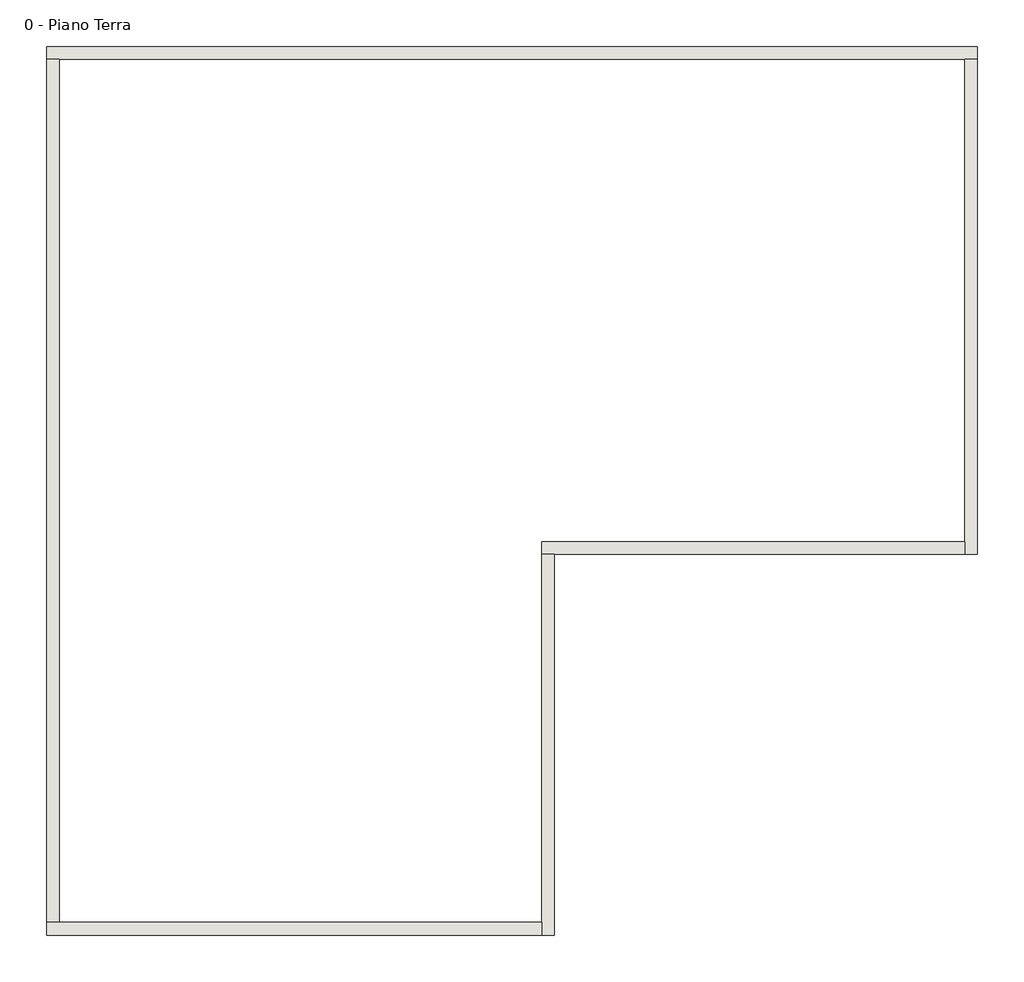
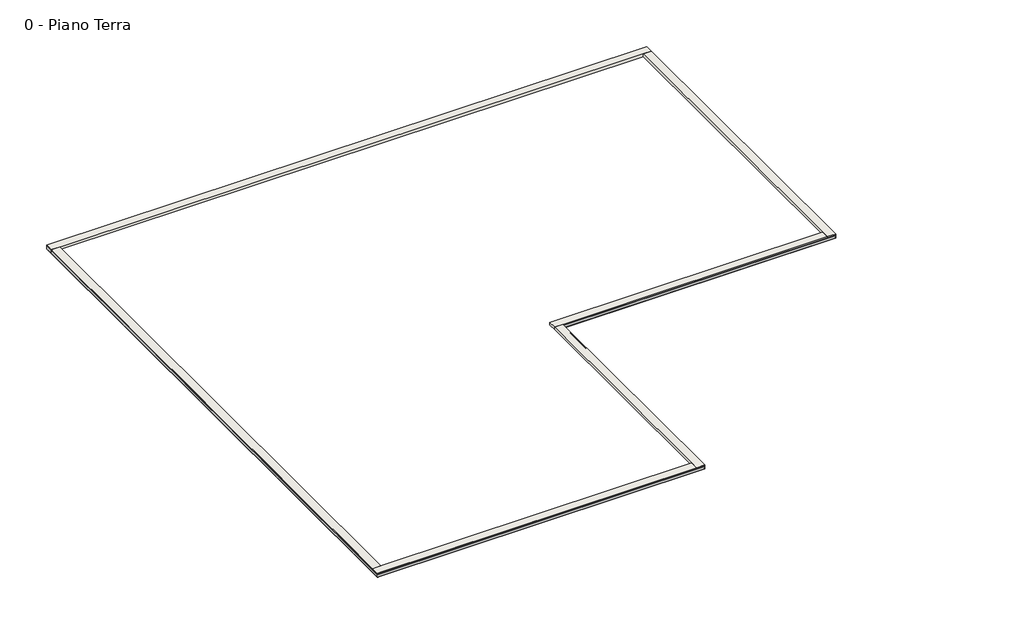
# One storey: 6 walls, 1 proxy.
"""IFC4 building model written with IfcOpenShell, lengths in millimetres."""

import ifcopenshell
import ifcopenshell.guid

model = None  # the IFC model being written
_history = None  # IfcOwnerHistory: only IFC2X3 demands one
_inside = {}  # id of a spatial element -> (the spatial element, [elements in it])
_under = {}  # id of a project, library or spatial element -> (it, [spatial elements below it])
_declared = {}  # id of a project -> (the project, [libraries it declares])
_typed = {}  # id of a type object -> (the type object, [elements of that type])
_made_of = {}  # id of a material, layer set ... -> (it, [elements and type objects made of it])


def new_model(schema):
    """Start an empty IFC model of exactly this schema.

    Asked for "IFC4X3", IfcOpenShell would pick the latest addendum, in which some entities
    have other attributes; the version numbers below select the first issue.
    IFC2X3 requires an IfcOwnerHistory on every rooted entity: one is made here for all.
    """
    global model, _history
    if schema == "IFC4X3":
        model = ifcopenshell.file(schema_version=(4, 3, 0, 0))
    else:
        model = ifcopenshell.file(schema=schema)
    _inside.clear()
    _under.clear()
    _declared.clear()
    _typed.clear()
    _made_of.clear()
    _history = None
    if model.schema == "IFC2X3":
        org = make("IfcOrganization", Name="unknown")
        user = make(
            "IfcPersonAndOrganization",
            ThePerson=make("IfcPerson", FamilyName="unknown"),
            TheOrganization=org,
        )
        app = make(
            "IfcApplication",
            ApplicationDeveloper=org,
            Version="unknown",
            ApplicationFullName="unknown",
            ApplicationIdentifier="unknown",
        )
        _history = make(
            "IfcOwnerHistory",
            OwningUser=user,
            OwningApplication=app,
            ChangeAction="ADDED",
            CreationDate=0,
        )
    return model


def make(cls, **values):
    """One entity of the class cls with the attributes given. An attribute that is None is left unset."""
    return model.create_entity(
        cls, **{name: value for name, value in values.items() if value is not None}
    )


def rooted(cls, **values):
    """An entity with a GlobalId (a new one), such as an element, a storey or a relation."""
    return make(cls, GlobalId=ifcopenshell.guid.new(), OwnerHistory=_history, **values)


def si_unit(unit_type, name, prefix=None):
    """IfcSIUnit, for example si_unit("LENGTHUNIT", "METRE", prefix="MILLI")."""
    return make("IfcSIUnit", UnitType=unit_type, Prefix=prefix, Name=name)


def assignment(units):
    """IfcUnitAssignment: the units of a project."""
    return None if units is None else make("IfcUnitAssignment", Units=units)


def point(xyz):
    """IfcCartesianPoint."""
    return None if xyz is None else make("IfcCartesianPoint", Coordinates=xyz)


def direction(xyz):
    """IfcDirection."""
    return None if xyz is None else make("IfcDirection", DirectionRatios=xyz)


def frame(location, z_axis=None, x_axis=None):
    """IfcAxis2Placement3D, a coordinate frame: its origin and axes. An axis left out is left unset."""
    return make(
        "IfcAxis2Placement3D",
        Location=point(location),
        Axis=direction(z_axis),
        RefDirection=direction(x_axis),
    )


def origin():
    """The frame at (0, 0, 0) with its axes left unset."""
    return frame((0.0, 0.0, 0.0))


def place(relative_to, where):
    """IfcLocalPlacement: puts the frame where relative to a parent placement (None: the world)."""
    return make(
        "IfcLocalPlacement", PlacementRelTo=relative_to, RelativePlacement=where
    )


def context(
    kind, dimensions, precision=None, world=None, true_north=None, identifier=None
):
    """IfcGeometricRepresentationContext, for example the 3D "Model" context."""
    return make(
        "IfcGeometricRepresentationContext",
        ContextIdentifier=identifier,
        ContextType=kind,
        CoordinateSpaceDimension=dimensions,
        Precision=precision,
        WorldCoordinateSystem=world,
        TrueNorth=true_north,
    )


def project(units=None, contexts=None):
    """IfcProject with its units and contexts."""
    return rooted(
        "IfcProject",
        Name="project",
        RepresentationContexts=contexts,
        UnitsInContext=assignment(units),
    )


def spatial(cls, under=None, at=None, **own):
    """A site, building, storey or space (cls), placed at a placement, below another one or the project."""
    s = rooted(cls, ObjectPlacement=at, **own)
    if under is not None:
        _under.setdefault(under.id(), (under, []))[1].append(s)
    return s


def faces_of(points, faces, orient=None, outer=None):
    """IfcFace entities. A face is a list of loops; a loop is a list of indices into points, from 0.

    orient and outer hold one flag for each loop. By default every Orientation is true, the
    first loop of a face is its IfcFaceOuterBound and the others are IfcFaceBound.
    """
    made = []
    for i, loops in enumerate(faces):
        bounds = []
        for j, loop in enumerate(loops):
            is_outer = j == 0 if outer is None else outer[i][j]
            bounds.append(
                make(
                    "IfcFaceOuterBound" if is_outer else "IfcFaceBound",
                    Bound=make("IfcPolyLoop", Polygon=[points[k] for k in loop]),
                    Orientation=True if orient is None else orient[i][j],
                )
            )
        made.append(make("IfcFace", Bounds=bounds))
    return made


def faceted_brep(points, faces, orient=None, outer=None, voids=None):
    """IfcFacetedBrep: a solid bounded by flat faces; with voids (closed shells), ...WithVoids."""
    shared = [point(p) for p in points]
    hull = make("IfcClosedShell", CfsFaces=faces_of(shared, faces, orient, outer))
    if voids is None:
        return make("IfcFacetedBrep", Outer=hull)
    return make(
        "IfcFacetedBrepWithVoids",
        Outer=hull,
        Voids=[
            make(cls, CfsFaces=faces_of(shared, fs, o, b)) for cls, fs, o, b in voids
        ],
    )


def shape(context_of_items, identifier, shape_type, items):
    """IfcShapeRepresentation: the items that make up one representation, for example the "Body"."""
    return make(
        "IfcShapeRepresentation",
        ContextOfItems=context_of_items,
        RepresentationIdentifier=identifier,
        RepresentationType=shape_type,
        Items=items,
    )


def made_of(thing, what):
    """Note that an element or type object is made of a material, layer set ...; save() writes the relation."""
    if what is not None:
        _made_of.setdefault(what.id(), (what, []))[1].append(thing)
    return thing


def element(
    cls,
    number,
    at=None,
    inside=None,
    cuts=None,
    type_object=None,
    material=None,
    context=None,
    identifier="Body",
    shape_type=None,
    held_by="IfcProductDefinitionShape",
    body=None,
    shapes=None,
    **own,
):
    """One element of the class cls, such as IfcWall. Its Tag is "e" and its number.

    at: its placement. inside: the storey or other place that contains it. cuts: it is an
    opening in that element (IfcRelVoidsElement). A single representation is given by context,
    identifier, shape_type and body (its items); several are given by shapes. held_by: the class
    of the entity that holds the representations. save() writes the other relations.
    """
    e = rooted(cls, Tag="e%d" % number, ObjectPlacement=at, **own)
    if body is not None:
        shapes = [shape(context, identifier, shape_type, body)]
    if shapes is not None:
        e.Representation = make(held_by, Representations=shapes)
    if inside is not None:
        _inside.setdefault(inside.id(), (inside, []))[1].append(e)
    if cuts is not None:
        rooted(
            "IfcRelVoidsElement", RelatingBuildingElement=cuts, RelatedOpeningElement=e
        )
    if type_object is not None:
        _typed.setdefault(type_object.id(), (type_object, []))[1].append(e)
    return made_of(e, material)


def aggregate(whole, parts):
    """IfcRelAggregates: a whole, such as a stair, and the parts it consists of."""
    return rooted("IfcRelAggregates", RelatingObject=whole, RelatedObjects=parts)


def save(model, path):
    """Write the relations noted so far, then the file.

    IfcRelAggregates (storeys below a building ...), IfcRelContainedInSpatialStructure (elements
    in a storey), IfcRelDefinesByType, IfcRelAssociatesMaterial and IfcRelDeclares: one each for
    every whole, place, type object, material and project.
    """
    for whole, parts in _under.values():
        aggregate(whole, parts)
    for where, things in _inside.values():
        rooted(
            "IfcRelContainedInSpatialStructure",
            RelatedElements=things,
            RelatingStructure=where,
        )
    for kind, things in _typed.values():
        rooted("IfcRelDefinesByType", RelatedObjects=things, RelatingType=kind)
    for what, things in _made_of.values():
        rooted("IfcRelAssociatesMaterial", RelatedObjects=things, RelatingMaterial=what)
    for by, libraries in _declared.values():
        rooted("IfcRelDeclares", RelatingContext=by, RelatedDefinitions=libraries)
    model.write(path)


model = new_model("IFC4")

# Units and contexts
model_context = context("Model", 3, world=origin())
ifc_project = project(units=[si_unit("LENGTHUNIT", "METRE", prefix="MILLI")], contexts=[model_context])

# Site, building, storey
site = spatial("IfcSite", under=ifc_project)
building = spatial("IfcBuilding", under=site)
storey = spatial("IfcBuildingStorey", under=building, Name="0 - Piano Terra", Elevation=0.0)

# Proxy
placement = place(None, origin())
element("IfcBuildingElementProxy", 1, Name="SISTEMA BI FLEX H.10 Volteco", ObjectType="SISTEMA BI FLEX H.10 Volteco", at=placement, inside=storey, context=model_context, shape_type="Brep", body=[
    faceted_brep([(3878.6527437, -9067.0974438, 62.0), (3881.1527437, -9069.5974438, 59.5), (3881.1527437, -9069.5974438, 52.5), (3882.1527437, -9070.5974438, 51.0), (3882.1527437, -9070.5974438, -49.0), (3881.1527437, -9069.5974438, -50.5), (3881.1527437, -9069.5974438, -57.5), (3878.6527437, -9067.0974438, -60.0), (3879.6527437, -9068.0974438, 51.0), (3879.6527437, -9068.0974438, -49.0), (3880.6527437, -9069.0974438, -49.0), (3880.6527437, -9069.0974438, 51.0), (-8121.3472563, -9067.0974438, 62.0), (-8121.3472563, -9067.0974438, -60.0), (-8123.8472563, -9069.5974438, -57.5), (-8123.8472563, -9069.5974438, -50.5), (-8124.8472563, -9070.5974438, -49.0), (-8124.8472563, -9070.5974438, 51.0), (-8123.8472563, -9069.5974438, 52.5), (-8123.8472563, -9069.5974438, 59.5), (-8122.3472563, -9068.0974438, 51.0), (-8123.3472563, -9069.0974438, 51.0), (-8123.3472563, -9069.0974438, -49.0), (-8122.3472563, -9068.0974438, -49.0)], [[[0, 1, 2, 3, 4, 5, 6, 7], [8, 9, 10, 11]], [[12, 13, 14, 15, 16, 17, 18, 19], [20, 21, 22, 23]], [[1, 0, 12, 19]], [[2, 1, 19, 18]], [[3, 2, 18, 17]], [[4, 3, 17, 16]], [[5, 4, 16, 15]], [[6, 5, 15, 14]], [[7, 6, 14, 13]], [[0, 7, 13, 12]], [[9, 8, 20, 23]], [[10, 9, 23, 22]], [[11, 10, 22, 21]], [[8, 11, 21, 20]]]),
    faceted_brep([(3878.6527437, -67.0974438, 62.0), (3881.1527437, -69.5974438, 59.5), (3881.1527437, -69.5974438, 52.5), (3882.1527437, -70.5974438, 51.0), (3882.1527437, -70.5974438, -49.0), (3881.1527437, -69.5974438, -50.5), (3881.1527437, -69.5974438, -57.5), (3878.6527437, -67.0974438, -60.0), (3879.6527437, -68.0974438, 51.0), (3879.6527437, -68.0974438, -49.0), (3880.6527437, -69.0974438, -49.0), (3880.6527437, -69.0974438, 51.0), (3878.6527437, -9067.0974438, 62.0), (3878.6527437, -9067.0974438, -60.0), (3881.1527437, -9069.5974438, -57.5), (3881.1527437, -9069.5974438, -50.5), (3882.1527437, -9070.5974438, -49.0), (3882.1527437, -9070.5974438, 51.0), (3881.1527437, -9069.5974438, 52.5), (3881.1527437, -9069.5974438, 59.5), (3879.6527437, -9068.0974438, 51.0), (3880.6527437, -9069.0974438, 51.0), (3880.6527437, -9069.0974438, -49.0), (3879.6527437, -9068.0974438, -49.0)], [[[0, 1, 2, 3, 4, 5, 6, 7], [8, 9, 10, 11]], [[12, 13, 14, 15, 16, 17, 18, 19], [20, 21, 22, 23]], [[1, 0, 12, 19]], [[2, 1, 19, 18]], [[3, 2, 18, 17]], [[4, 3, 17, 16]], [[5, 4, 16, 15]], [[6, 5, 15, 14]], [[7, 6, 14, 13]], [[0, 7, 13, 12]], [[9, 8, 20, 23]], [[10, 9, 23, 22]], [[11, 10, 22, 21]], [[8, 11, 21, 20]]]),
    faceted_brep([(13878.6527437, -67.0974438, 62.0), (13881.1527437, -69.5974438, 59.5), (13881.1527437, -69.5974438, 52.5), (13882.1527437, -70.5974438, 51.0), (13882.1527437, -70.5974438, -49.0), (13881.1527437, -69.5974438, -50.5), (13881.1527437, -69.5974438, -57.5), (13878.6527437, -67.0974438, -60.0), (13879.6527437, -68.0974438, 51.0), (13879.6527437, -68.0974438, -49.0), (13880.6527437, -69.0974438, -49.0), (13880.6527437, -69.0974438, 51.0), (3878.6527437, -67.0974438, 62.0), (3878.6527437, -67.0974438, -60.0), (3881.1527437, -69.5974438, -57.5), (3881.1527437, -69.5974438, -50.5), (3882.1527437, -70.5974438, -49.0), (3882.1527437, -70.5974438, 51.0), (3881.1527437, -69.5974438, 52.5), (3881.1527437, -69.5974438, 59.5), (3879.6527437, -68.0974438, 51.0), (3880.6527437, -69.0974438, 51.0), (3880.6527437, -69.0974438, -49.0), (3879.6527437, -68.0974438, -49.0)], [[[0, 1, 2, 3, 4, 5, 6, 7], [8, 9, 10, 11]], [[12, 13, 14, 15, 16, 17, 18, 19], [20, 21, 22, 23]], [[1, 0, 12, 19]], [[2, 1, 19, 18]], [[3, 2, 18, 17]], [[4, 3, 17, 16]], [[5, 4, 16, 15]], [[6, 5, 15, 14]], [[7, 6, 14, 13]], [[0, 7, 13, 12]], [[9, 8, 20, 23]], [[10, 9, 23, 22]], [[11, 10, 22, 21]], [[8, 11, 21, 20]]]),
    faceted_brep([(13878.6527437, 11932.9025562, 62.0), (13881.1527437, 11935.4025562, 59.5), (13881.1527437, 11935.4025562, 52.5), (13882.1527437, 11936.4025562, 51.0), (13882.1527437, 11936.4025562, -49.0), (13881.1527437, 11935.4025562, -50.5), (13881.1527437, 11935.4025562, -57.5), (13878.6527437, 11932.9025562, -60.0), (13879.6527437, 11933.9025562, 51.0), (13879.6527437, 11933.9025562, -49.0), (13880.6527437, 11934.9025562, -49.0), (13880.6527437, 11934.9025562, 51.0), (13878.6527437, -67.0974438, 62.0), (13878.6527437, -67.0974438, -60.0), (13881.1527437, -69.5974438, -57.5), (13881.1527437, -69.5974438, -50.5), (13882.1527437, -70.5974438, -49.0), (13882.1527437, -70.5974438, 51.0), (13881.1527437, -69.5974438, 52.5), (13881.1527437, -69.5974438, 59.5), (13879.6527437, -68.0974438, 51.0), (13880.6527437, -69.0974438, 51.0), (13880.6527437, -69.0974438, -49.0), (13879.6527437, -68.0974438, -49.0)], [[[0, 1, 2, 3, 4, 5, 6, 7], [8, 9, 10, 11]], [[12, 13, 14, 15, 16, 17, 18, 19], [20, 21, 22, 23]], [[1, 0, 12, 19]], [[2, 1, 19, 18]], [[3, 2, 18, 17]], [[4, 3, 17, 16]], [[5, 4, 16, 15]], [[6, 5, 15, 14]], [[7, 6, 14, 13]], [[0, 7, 13, 12]], [[9, 8, 20, 23]], [[10, 9, 23, 22]], [[11, 10, 22, 21]], [[8, 11, 21, 20]]]),
    faceted_brep([(-8121.3472563, -9067.0974438, 62.0), (-8123.8472563, -9069.5974438, 59.5), (-8123.8472563, -9069.5974438, 52.5), (-8124.8472563, -9070.5974438, 51.0), (-8124.8472563, -9070.5974438, -49.0), (-8123.8472563, -9069.5974438, -50.5), (-8123.8472563, -9069.5974438, -57.5), (-8121.3472563, -9067.0974438, -60.0), (-8122.3472563, -9068.0974438, 51.0), (-8122.3472563, -9068.0974438, -49.0), (-8123.3472563, -9069.0974438, -49.0), (-8123.3472563, -9069.0974438, 51.0), (-8121.3472563, 11932.9025562, 62.0), (-8121.3472563, 11932.9025562, -60.0), (-8123.8472563, 11935.4025562, -57.5), (-8123.8472563, 11935.4025562, -50.5), (-8124.8472563, 11936.4025562, -49.0), (-8124.8472563, 11936.4025562, 51.0), (-8123.8472563, 11935.4025562, 52.5), (-8123.8472563, 11935.4025562, 59.5), (-8122.3472563, 11933.9025562, 51.0), (-8123.3472563, 11934.9025562, 51.0), (-8123.3472563, 11934.9025562, -49.0), (-8122.3472563, 11933.9025562, -49.0)], [[[0, 1, 2, 3, 4, 5, 6, 7], [8, 9, 10, 11]], [[12, 13, 14, 15, 16, 17, 18, 19], [20, 21, 22, 23]], [[1, 0, 12, 19]], [[2, 1, 19, 18]], [[3, 2, 18, 17]], [[4, 3, 17, 16]], [[5, 4, 16, 15]], [[6, 5, 15, 14]], [[7, 6, 14, 13]], [[0, 7, 13, 12]], [[9, 8, 20, 23]], [[10, 9, 23, 22]], [[11, 10, 22, 21]], [[8, 11, 21, 20]]]),
    faceted_brep([(-8121.3472563, 11932.9025562, 62.0), (-8123.8472563, 11935.4025562, 59.5), (-8123.8472563, 11935.4025562, 52.5), (-8124.8472563, 11936.4025562, 51.0), (-8124.8472563, 11936.4025562, -49.0), (-8123.8472563, 11935.4025562, -50.5), (-8123.8472563, 11935.4025562, -57.5), (-8121.3472563, 11932.9025562, -60.0), (-8122.3472563, 11933.9025562, 51.0), (-8122.3472563, 11933.9025562, -49.0), (-8123.3472563, 11934.9025562, -49.0), (-8123.3472563, 11934.9025562, 51.0), (13878.6527437, 11932.9025562, 62.0), (13878.6527437, 11932.9025562, -60.0), (13881.1527437, 11935.4025562, -57.5), (13881.1527437, 11935.4025562, -50.5), (13882.1527437, 11936.4025562, -49.0), (13882.1527437, 11936.4025562, 51.0), (13881.1527437, 11935.4025562, 52.5), (13881.1527437, 11935.4025562, 59.5), (13879.6527437, 11933.9025562, 51.0), (13880.6527437, 11934.9025562, 51.0), (13880.6527437, 11934.9025562, -49.0), (13879.6527437, 11933.9025562, -49.0)], [[[0, 1, 2, 3, 4, 5, 6, 7], [8, 9, 10, 11]], [[12, 13, 14, 15, 16, 17, 18, 19], [20, 21, 22, 23]], [[1, 0, 12, 19]], [[2, 1, 19, 18]], [[3, 2, 18, 17]], [[4, 3, 17, 16]], [[5, 4, 16, 15]], [[6, 5, 15, 14]], [[7, 6, 14, 13]], [[0, 7, 13, 12]], [[9, 8, 20, 23]], [[10, 9, 23, 22]], [[11, 10, 22, 21]], [[8, 11, 21, 20]]]),
])

# Walls
element("IfcWall", 2, ObjectType="RC wall above ground", at=placement, inside=storey, context=model_context, shape_type="Brep", body=[
    faceted_brep([(-8121.3472563, 11632.9025562, 0.0), (-7821.3472563, 11632.9025562, 0.0), (13578.6527437, 11632.9025562, 0.0), (13878.6527437, 11632.9025562, 0.0), (13878.6527437, 11632.9025562, 100.0), (13578.6527437, 11632.9025562, 100.0), (-7821.3472563, 11632.9025562, 100.0), (-8121.3472563, 11632.9025562, 100.0), (-8121.3472563, 11932.9025562, 0.0), (-8121.3472563, 11932.9025562, 100.0), (13878.6527437, 11932.9025562, 100.0), (13878.6527437, 11932.9025562, 0.0)], [[[0, 1, 2, 3, 4, 5, 6, 7]], [[8, 9, 10, 11]], [[3, 2, 1, 0, 8, 11]], [[7, 6, 5, 4, 10, 9]], [[4, 3, 11, 10]], [[0, 7, 9, 8]]]),
])
element("IfcWall", 3, ObjectType="RC wall above ground", at=placement, inside=storey, context=model_context, shape_type="Brep", body=[
    faceted_brep([(13578.6527437, 11632.9025562, 0.0), (13578.6527437, 232.9025562, 0.0), (13578.6527437, -67.0974438, 0.0), (13578.6527437, -67.0974438, 100.0), (13578.6527437, 232.9025562, 100.0), (13578.6527437, 11632.9025562, 100.0), (13878.6527437, 11632.9025562, 0.0), (13878.6527437, 11632.9025562, 100.0), (13878.6527437, -67.0974438, 100.0), (13878.6527437, -67.0974438, 0.0)], [[[0, 1, 2, 3, 4, 5]], [[6, 7, 8, 9]], [[2, 1, 0, 6, 9]], [[5, 4, 3, 8, 7]], [[0, 5, 7, 6]], [[3, 2, 9, 8]]]),
])
element("IfcWall", 4, ObjectType="RC wall above ground", at=placement, inside=storey, context=model_context, shape_type="Brep", body=[
    faceted_brep([(13578.6527437, 232.9025562, 0.0), (3578.6527437, 232.9025562, 0.0), (3578.6527437, 232.9025562, 100.0), (13578.6527437, 232.9025562, 100.0), (13578.6527437, -67.0974438, 0.0), (13578.6527437, -67.0974438, 100.0), (3878.6527437, -67.0974438, 100.0), (3578.6527437, -67.0974438, 100.0), (3578.6527437, -67.0974438, 0.0), (3878.6527437, -67.0974438, 0.0)], [[[0, 1, 2, 3]], [[4, 5, 6, 7, 8, 9]], [[1, 0, 4, 9, 8]], [[3, 2, 7, 6, 5]], [[0, 3, 5, 4]], [[2, 1, 8, 7]]]),
])
element("IfcWall", 5, ObjectType="RC wall above ground", at=placement, inside=storey, context=model_context, shape_type="Brep", body=[
    faceted_brep([(3578.6527437, -67.0974438, 0.0), (3578.6527437, -8767.0974438, 0.0), (3578.6527437, -9067.0974438, 0.0), (3578.6527437, -9067.0974438, 62.0), (3578.6527437, -9067.0974438, 100.0), (3578.6527437, -8767.0974438, 100.0), (3578.6527437, -67.0974438, 100.0), (3878.6527437, -9067.0974438, 0.0), (3878.6527437, -67.0974438, 0.0), (3878.6527437, -67.0974438, 62.0), (3878.6527437, -67.0974438, 100.0), (3878.6527437, -9067.0974438, 100.0), (3878.6527437, -9067.0974438, 62.0)], [[[0, 1, 2, 3, 4, 5, 6]], [[7, 8, 9, 10, 11, 12]], [[2, 1, 0, 8, 7]], [[6, 5, 4, 11, 10]], [[0, 6, 10, 9, 8]], [[2, 7, 12, 11, 4, 3]]]),
])
element("IfcWall", 6, ObjectType="RC wall above ground", at=placement, inside=storey, context=model_context, shape_type="Brep", body=[
    faceted_brep([(3578.6527437, -8767.0974438, 0.0), (-7821.3472563, -8767.0974438, 0.0), (-8121.3472563, -8767.0974438, 0.0), (-8121.3472563, -8767.0974438, 62.0), (-8121.3472563, -8767.0974438, 100.0), (-7821.3472563, -8767.0974438, 100.0), (3578.6527437, -8767.0974438, 100.0), (-8121.3472563, -9067.0974438, 0.0), (3578.6527437, -9067.0974438, 0.0), (3578.6527437, -9067.0974438, 62.0), (3578.6527437, -9067.0974438, 100.0), (-8121.3472563, -9067.0974438, 100.0), (-8121.3472563, -9067.0974438, 62.0)], [[[0, 1, 2, 3, 4, 5, 6]], [[7, 8, 9, 10, 11, 12]], [[2, 1, 0, 8, 7]], [[6, 5, 4, 11, 10]], [[0, 6, 10, 9, 8]], [[2, 7, 12, 11, 4, 3]]]),
])
element("IfcWall", 7, ObjectType="RC wall above ground", at=placement, inside=storey, context=model_context, shape_type="Brep", body=[
    faceted_brep([(-7821.3472563, -8767.0974438, 0.0), (-7821.3472563, 11632.9025562, 0.0), (-7821.3472563, 11632.9025562, 100.0), (-7821.3472563, -8767.0974438, 100.0), (-8121.3472563, 11632.9025562, 0.0), (-8121.3472563, -8767.0974438, 0.0), (-8121.3472563, -8767.0974438, 62.0), (-8121.3472563, -8767.0974438, 100.0), (-8121.3472563, 11632.9025562, 100.0), (-8121.3472563, 11632.9025562, 62.0)], [[[0, 1, 2, 3]], [[4, 5, 6, 7, 8, 9]], [[1, 0, 5, 4]], [[3, 2, 8, 7]], [[2, 1, 4, 9, 8]], [[0, 3, 7, 6, 5]]]),
])

save(model, "model.ifc")
